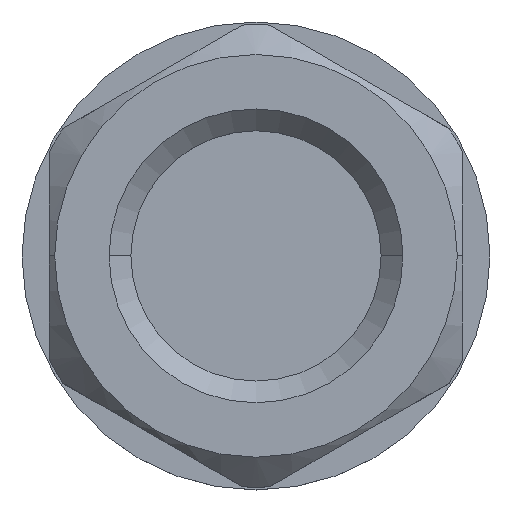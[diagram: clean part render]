
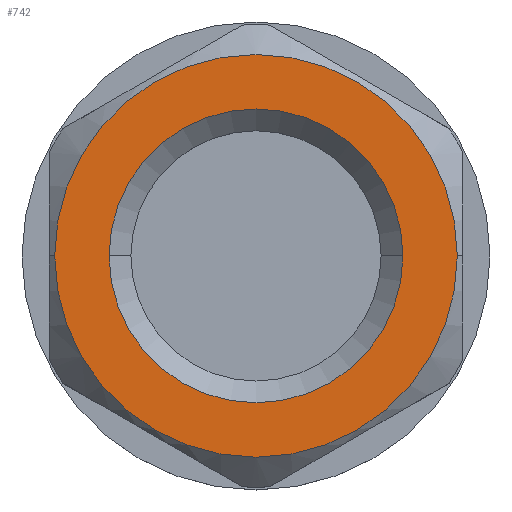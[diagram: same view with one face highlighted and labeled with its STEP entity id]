
A CAD part, top view. The second image highlights one B-rep face of the part: STEP entity #742.
In plain terms, the highlighted planar face has unit normal (0, 0, 1).
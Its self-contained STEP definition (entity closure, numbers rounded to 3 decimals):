
#13 = CARTESIAN_POINT ( 'NONE',  ( 13.5, 0., 10.2 ) ) ;
#94 = CARTESIAN_POINT ( 'NONE',  ( 0., 0., 10.2 ) ) ;
#106 = CARTESIAN_POINT ( 'NONE',  ( -13.5, 0., 10.2 ) ) ;
#134 = DIRECTION ( 'NONE',  ( -1., 0., 0. ) ) ;
#172 = DIRECTION ( 'NONE',  ( 0., 0., 1. ) ) ;
#217 = VERTEX_POINT ( 'NONE', #600 ) ;
#265 = DIRECTION ( 'NONE',  ( 0., 0., 1. ) ) ;
#270 = AXIS2_PLACEMENT_3D ( 'NONE', #393, #908, #134 ) ;
#273 = CARTESIAN_POINT ( 'NONE',  ( 0., 18.5, 10.2 ) ) ;
#279 = AXIS2_PLACEMENT_3D ( 'NONE', #94, #353, #1158 ) ;
#280 = DIRECTION ( 'NONE',  ( 0., 0., 1. ) ) ;
#284 = EDGE_CURVE ( 'NONE', #866, #217, #791, .T. ) ;
#342 = CIRCLE ( 'NONE', #793, 13.5 ) ;
#353 = DIRECTION ( 'NONE',  ( 0., 0., -1. ) ) ;
#356 = VERTEX_POINT ( 'NONE', #13 ) ;
#393 = CARTESIAN_POINT ( 'NONE',  ( 0., 0., 10.2 ) ) ;
#442 = VERTEX_POINT ( 'NONE', #106 ) ;
#524 = AXIS2_PLACEMENT_3D ( 'NONE', #807, #172, #798 ) ;
#556 = CARTESIAN_POINT ( 'NONE',  ( -18.5, 0., 10.2 ) ) ;
#565 = ORIENTED_EDGE ( 'NONE', *, *, #988, .F. ) ;
#600 = CARTESIAN_POINT ( 'NONE',  ( 18.5, 0., 10.2 ) ) ;
#611 = DIRECTION ( 'NONE',  ( 1., 0., 0. ) ) ;
#636 = DIRECTION ( 'NONE',  ( 1., 0., 0. ) ) ;
#675 = EDGE_LOOP ( 'NONE', ( #1156, #565 ) ) ;
#719 = EDGE_CURVE ( 'NONE', #356, #442, #768, .T. ) ;
#725 = CARTESIAN_POINT ( 'NONE',  ( 0., 0., 10.2 ) ) ;
#742 = ADVANCED_FACE ( 'NONE', ( #1067, #788 ), #1049, .T. ) ;
#768 = CIRCLE ( 'NONE', #524, 13.5 ) ;
#781 = EDGE_LOOP ( 'NONE', ( #1019, #1108 ) ) ;
#788 = FACE_OUTER_BOUND ( 'NONE', #675, .T. ) ;
#791 = CIRCLE ( 'NONE', #279, 18.5 ) ;
#793 = AXIS2_PLACEMENT_3D ( 'NONE', #725, #280, #636 ) ;
#798 = DIRECTION ( 'NONE',  ( 1., 0., 0. ) ) ;
#807 = CARTESIAN_POINT ( 'NONE',  ( 0., 0., 10.2 ) ) ;
#865 = CIRCLE ( 'NONE', #270, 18.5 ) ;
#866 = VERTEX_POINT ( 'NONE', #556 ) ;
#902 = EDGE_CURVE ( 'NONE', #442, #356, #342, .T. ) ;
#908 = DIRECTION ( 'NONE',  ( 0., 0., -1. ) ) ;
#969 = AXIS2_PLACEMENT_3D ( 'NONE', #273, #265, #611 ) ;
#988 = EDGE_CURVE ( 'NONE', #217, #866, #865, .T. ) ;
#1019 = ORIENTED_EDGE ( 'NONE', *, *, #719, .F. ) ;
#1049 = PLANE ( 'NONE',  #969 ) ;
#1067 = FACE_BOUND ( 'NONE', #781, .T. ) ;
#1108 = ORIENTED_EDGE ( 'NONE', *, *, #902, .F. ) ;
#1156 = ORIENTED_EDGE ( 'NONE', *, *, #284, .F. ) ;
#1158 = DIRECTION ( 'NONE',  ( -1., 0., 0. ) ) ;
